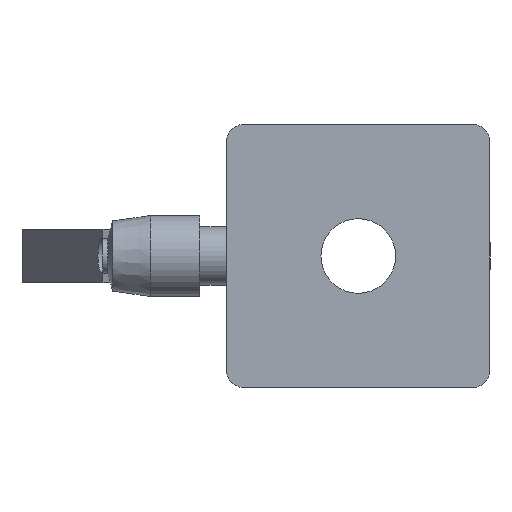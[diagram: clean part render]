
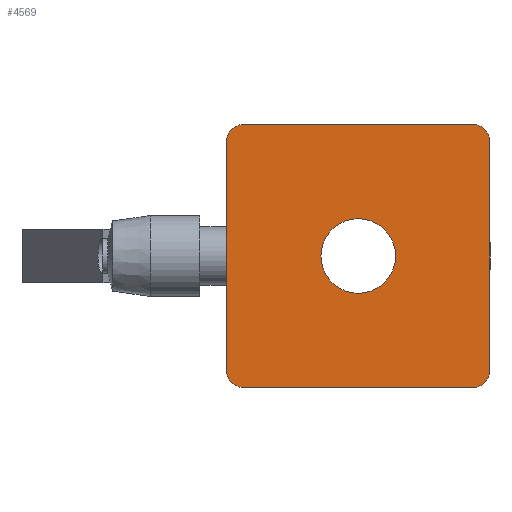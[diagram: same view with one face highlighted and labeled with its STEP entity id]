
A CAD part, left-side view. The second image highlights one B-rep face of the part: STEP entity #4569.
In plain terms, the highlighted planar face has unit normal (-1, 0, 0).
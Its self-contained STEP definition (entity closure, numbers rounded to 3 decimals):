
#29 = FACE_OUTER_BOUND ( 'NONE', #5027, .T. ) ;
#72 = VERTEX_POINT ( 'NONE', #1313 ) ;
#160 = VERTEX_POINT ( 'NONE', #4983 ) ;
#180 = ORIENTED_EDGE ( 'NONE', *, *, #1983, .T. ) ;
#185 = CARTESIAN_POINT ( 'NONE',  ( 215.288, 198.326, 64.409 ) ) ;
#204 = EDGE_CURVE ( 'NONE', #160, #2373, #1159, .T. ) ;
#205 = DIRECTION ( 'NONE',  ( -1., 0., 0. ) ) ;
#315 = PLANE ( 'NONE',  #3269 ) ;
#332 = VERTEX_POINT ( 'NONE', #740 ) ;
#473 = CARTESIAN_POINT ( 'NONE',  ( 215.288, 198.326, 90.409 ) ) ;
#534 = CARTESIAN_POINT ( 'NONE',  ( 215.288, 198.326, 62.409 ) ) ;
#676 = AXIS2_PLACEMENT_3D ( 'NONE', #3349, #5126, #4666 ) ;
#740 = CARTESIAN_POINT ( 'NONE',  ( 215.288, 198.326, 92.409 ) ) ;
#753 = DIRECTION ( 'NONE',  ( 0., 0., -1. ) ) ;
#794 = ORIENTED_EDGE ( 'NONE', *, *, #5073, .T. ) ;
#865 = DIRECTION ( 'NONE',  ( 0., 0., -1. ) ) ;
#895 = ORIENTED_EDGE ( 'NONE', *, *, #3886, .T. ) ;
#1039 = CARTESIAN_POINT ( 'NONE',  ( 215.288, 211.326, 73.159 ) ) ;
#1159 = LINE ( 'NONE', #3732, #1918 ) ;
#1221 = CIRCLE ( 'NONE', #4516, 2. ) ;
#1253 = EDGE_CURVE ( 'NONE', #4511, #3404, #3468, .T. ) ;
#1313 = CARTESIAN_POINT ( 'NONE',  ( 215.288, 226.326, 90.409 ) ) ;
#1366 = LINE ( 'NONE', #2709, #4214 ) ;
#1491 = EDGE_CURVE ( 'NONE', #2298, #5252, #1366, .T. ) ;
#1608 = CIRCLE ( 'NONE', #3792, 4.25 ) ;
#1656 = EDGE_CURVE ( 'NONE', #5252, #160, #1221, .T. ) ;
#1699 = CIRCLE ( 'NONE', #5021, 2. ) ;
#1916 = CARTESIAN_POINT ( 'NONE',  ( 215.288, 196.326, 92.409 ) ) ;
#1918 = VECTOR ( 'NONE', #3286, 1000. ) ;
#1983 = EDGE_CURVE ( 'NONE', #2202, #2298, #2741, .T. ) ;
#2086 = LINE ( 'NONE', #3891, #4050 ) ;
#2125 = CARTESIAN_POINT ( 'NONE',  ( 215.288, 196.326, 90.409 ) ) ;
#2169 = ORIENTED_EDGE ( 'NONE', *, *, #4827, .T. ) ;
#2179 = ORIENTED_EDGE ( 'NONE', *, *, #1491, .T. ) ;
#2202 = VERTEX_POINT ( 'NONE', #2342 ) ;
#2289 = ORIENTED_EDGE ( 'NONE', *, *, #1253, .T. ) ;
#2298 = VERTEX_POINT ( 'NONE', #5620 ) ;
#2342 = CARTESIAN_POINT ( 'NONE',  ( 215.288, 226.326, 64.409 ) ) ;
#2367 = DIRECTION ( 'NONE',  ( 0., 1., 0. ) ) ;
#2373 = VERTEX_POINT ( 'NONE', #2125 ) ;
#2709 = CARTESIAN_POINT ( 'NONE',  ( 215.288, 196.326, 62.409 ) ) ;
#2714 = EDGE_LOOP ( 'NONE', ( #895, #2289 ) ) ;
#2741 = CIRCLE ( 'NONE', #676, 2. ) ;
#3022 = DIRECTION ( 'NONE',  ( 1., 0., 0. ) ) ;
#3096 = ORIENTED_EDGE ( 'NONE', *, *, #4159, .T. ) ;
#3162 = CIRCLE ( 'NONE', #5686, 2. ) ;
#3269 = AXIS2_PLACEMENT_3D ( 'NONE', #5189, #3828, #3392 ) ;
#3286 = DIRECTION ( 'NONE',  ( 0., 0., 1. ) ) ;
#3349 = CARTESIAN_POINT ( 'NONE',  ( 215.288, 224.326, 64.409 ) ) ;
#3355 = CARTESIAN_POINT ( 'NONE',  ( 215.288, 224.326, 90.409 ) ) ;
#3392 = DIRECTION ( 'NONE',  ( 0., 0., 1. ) ) ;
#3404 = VERTEX_POINT ( 'NONE', #1039 ) ;
#3418 = LINE ( 'NONE', #1916, #4931 ) ;
#3420 = DIRECTION ( 'NONE',  ( -1., 0., 0. ) ) ;
#3468 = CIRCLE ( 'NONE', #3815, 4.25 ) ;
#3477 = DIRECTION ( 'NONE',  ( 0., 0., -1. ) ) ;
#3511 = EDGE_CURVE ( 'NONE', #72, #2202, #2086, .T. ) ;
#3607 = DIRECTION ( 'NONE',  ( -1., 0., 0. ) ) ;
#3732 = CARTESIAN_POINT ( 'NONE',  ( 215.288, 196.326, 62.409 ) ) ;
#3787 = DIRECTION ( 'NONE',  ( 0., 0., -1. ) ) ;
#3792 = AXIS2_PLACEMENT_3D ( 'NONE', #5675, #3022, #865 ) ;
#3815 = AXIS2_PLACEMENT_3D ( 'NONE', #4797, #5621, #3477 ) ;
#3828 = DIRECTION ( 'NONE',  ( -1., 0., 0. ) ) ;
#3886 = EDGE_CURVE ( 'NONE', #3404, #4511, #1608, .T. ) ;
#3891 = CARTESIAN_POINT ( 'NONE',  ( 215.288, 226.326, 62.409 ) ) ;
#4050 = VECTOR ( 'NONE', #3787, 1000. ) ;
#4068 = DIRECTION ( 'NONE',  ( 0., -1., 0. ) ) ;
#4159 = EDGE_CURVE ( 'NONE', #332, #5409, #3418, .T. ) ;
#4193 = DIRECTION ( 'NONE',  ( 0., 0., -1. ) ) ;
#4214 = VECTOR ( 'NONE', #4068, 1000. ) ;
#4377 = ORIENTED_EDGE ( 'NONE', *, *, #204, .T. ) ;
#4457 = DIRECTION ( 'NONE',  ( 0., 0., 1. ) ) ;
#4511 = VERTEX_POINT ( 'NONE', #5090 ) ;
#4516 = AXIS2_PLACEMENT_3D ( 'NONE', #185, #205, #4193 ) ;
#4569 = ADVANCED_FACE ( 'NONE', ( #29, #5576 ), #315, .T. ) ;
#4666 = DIRECTION ( 'NONE',  ( 0., 0., 1. ) ) ;
#4797 = CARTESIAN_POINT ( 'NONE',  ( 215.288, 211.326, 77.409 ) ) ;
#4827 = EDGE_CURVE ( 'NONE', #5409, #72, #3162, .T. ) ;
#4931 = VECTOR ( 'NONE', #2367, 1000. ) ;
#4983 = CARTESIAN_POINT ( 'NONE',  ( 215.288, 196.326, 64.409 ) ) ;
#5021 = AXIS2_PLACEMENT_3D ( 'NONE', #473, #3607, #4457 ) ;
#5027 = EDGE_LOOP ( 'NONE', ( #180, #2179, #5226, #4377, #794, #3096, #2169, #5707 ) ) ;
#5073 = EDGE_CURVE ( 'NONE', #2373, #332, #1699, .T. ) ;
#5090 = CARTESIAN_POINT ( 'NONE',  ( 215.288, 211.326, 81.659 ) ) ;
#5126 = DIRECTION ( 'NONE',  ( -1., 0., 0. ) ) ;
#5189 = CARTESIAN_POINT ( 'NONE',  ( 215.288, 196.326, 62.409 ) ) ;
#5226 = ORIENTED_EDGE ( 'NONE', *, *, #1656, .T. ) ;
#5252 = VERTEX_POINT ( 'NONE', #534 ) ;
#5409 = VERTEX_POINT ( 'NONE', #5631 ) ;
#5576 = FACE_BOUND ( 'NONE', #2714, .T. ) ;
#5620 = CARTESIAN_POINT ( 'NONE',  ( 215.288, 224.326, 62.409 ) ) ;
#5621 = DIRECTION ( 'NONE',  ( 1., 0., 0. ) ) ;
#5631 = CARTESIAN_POINT ( 'NONE',  ( 215.288, 224.326, 92.409 ) ) ;
#5675 = CARTESIAN_POINT ( 'NONE',  ( 215.288, 211.326, 77.409 ) ) ;
#5686 = AXIS2_PLACEMENT_3D ( 'NONE', #3355, #3420, #753 ) ;
#5707 = ORIENTED_EDGE ( 'NONE', *, *, #3511, .T. ) ;
